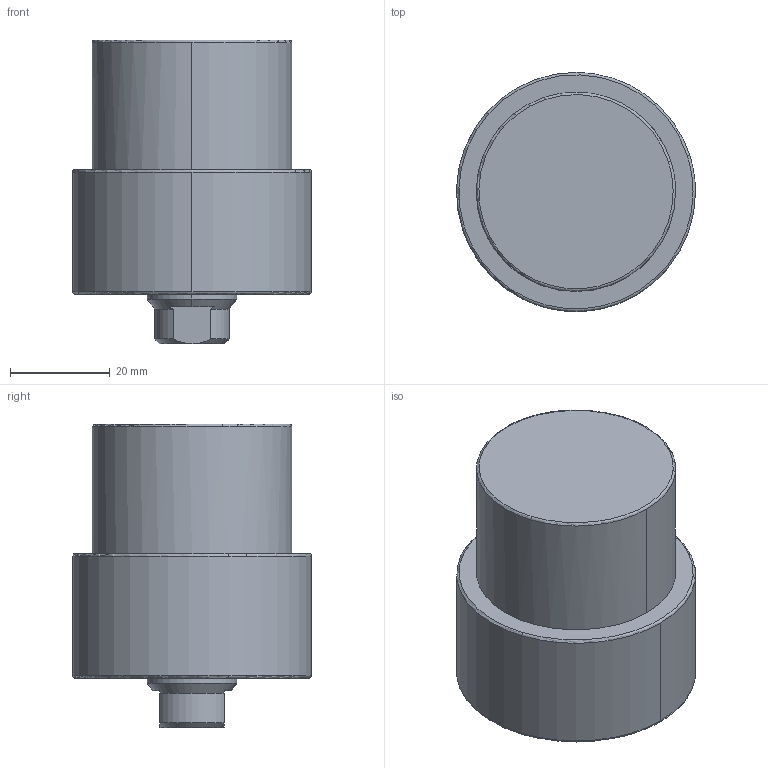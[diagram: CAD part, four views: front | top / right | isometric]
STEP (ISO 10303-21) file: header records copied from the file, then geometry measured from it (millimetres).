
FILE_DESCRIPTION((' '),'2;1');
FILE_NAME( 'TLLU-040GA-(01-014).STEP.stp', '2025-10-24T16:37:09', (' '), ('--- Datakit www.datakit.com---'), ' Datakit CrossCadWare V2024.1 Dec 21 2023', 'Mastercam 2025', ' ');
FILE_SCHEMA(('AUTOMOTIVE_DESIGN { 1 0 10303 214 1 1 1 1 }'));
Length unit declared in the file: millimetre
Products named in the file (1): TLLU-040GA-(01-014)
Bounding box: 47.99 x 48 x 61 mm (x, y, z)
Volume: 77923.7 mm3; surface area: 12250.9 mm2
Topology: 1 solids, 1 shells, 62 faces, 180 edges, 119 vertices
Faces by surface type: cone 24, cylinder 22, plane 10, torus 6
Entity records: 2106 total; most frequent: DIRECTION 402, CARTESIAN_POINT 388, ORIENTED_EDGE 340, AXIS2_PLACEMENT_3D 177, EDGE_CURVE 170, VERTEX_POINT 119, CIRCLE 114, EDGE_LOOP 71
